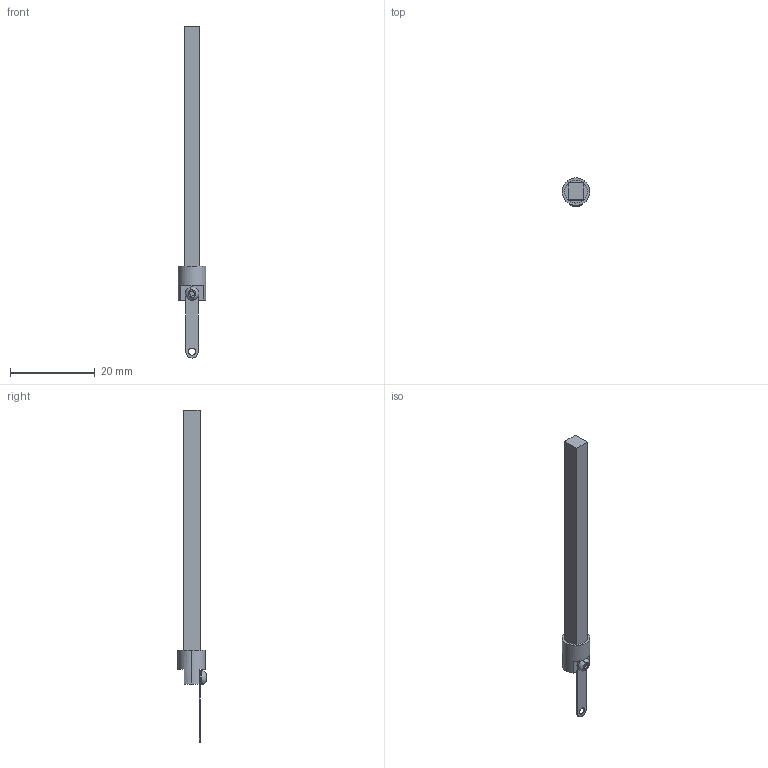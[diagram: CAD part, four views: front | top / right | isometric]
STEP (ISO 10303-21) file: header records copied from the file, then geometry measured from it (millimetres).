
FILE_DESCRIPTION (( 'STEP AP214' ), '1' );
FILE_NAME ('LL06_DriveRod_060M1-PiezoMotor.STEP', '2017-03-14T06:56:39', ( '' ), ( '' ), 'SwSTEP 2.0', 'SolidWorks 2016', '' );
FILE_SCHEMA (( 'AUTOMOTIVE_DESIGN' ));
Length unit declared in the file: millimetre
Products named in the file (1): LL06_DriveRod_060M1-PiezoMotor
Bounding box: 6.5 x 6.65 x 78.15 mm (x, y, z)
Volume: 1025.4 mm3; surface area: 1378.1 mm2
Topology: 4 solids, 4 shells, 62 faces, 145 edges, 93 vertices
Faces by surface type: cylinder 31, plane 21, cone 8, torus 2
Entity records: 1884 total; most frequent: DIRECTION 347, CARTESIAN_POINT 299, ORIENTED_EDGE 286, EDGE_CURVE 143, AXIS2_PLACEMENT_3D 141, VERTEX_POINT 93, CIRCLE 78, EDGE_LOOP 72
